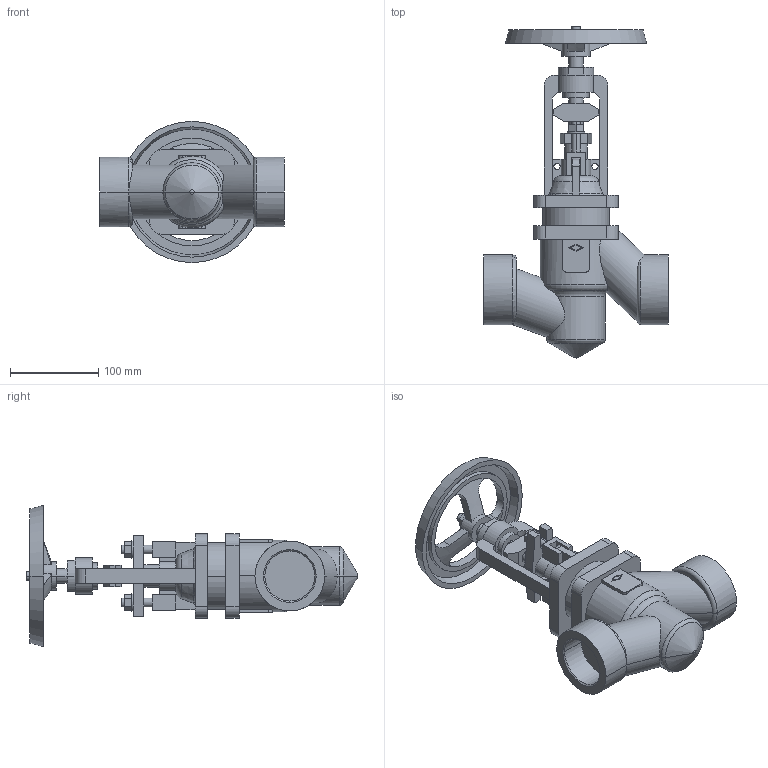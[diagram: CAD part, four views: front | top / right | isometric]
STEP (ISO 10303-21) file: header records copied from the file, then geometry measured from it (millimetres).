
FILE_DESCRIPTION(('OneSpaceDesigner STEP Export'),'2;1');
FILE_NAME('c000004264.stp','2010-05-04T11:09:02',(''),(''),'OneSpace Designer STEP processor for AP214 (Solid Model)','OneSpace Modeling 15.50B 03-Nov-2007 (C) CoCreate Software GmbH','');
FILE_SCHEMA(('AUTOMOTIVE_DESIGN { 1 0 10303 214 1 1 1 1 }'));
Length unit declared in the file: millimetre
Products named in the file (1): 1
Bounding box: 209 x 376.13 x 160 mm (x, y, z)
Volume: 1708873.6 mm3; surface area: 214317.1 mm2
Topology: 1 solids, 1 shells, 289 faces, 756 edges, 491 vertices
Faces by surface type: plane 150, cylinder 91, cone 28, torus 18, sphere 2
Entity records: 11661 total; most frequent: CARTESIAN_POINT 2548, ORIENTED_EDGE 1512, DIRECTION 1276, EDGE_CURVE 756, VERTEX_POINT 491, AXIS2_PLACEMENT_3D 426, VECTOR 424, LINE 424
